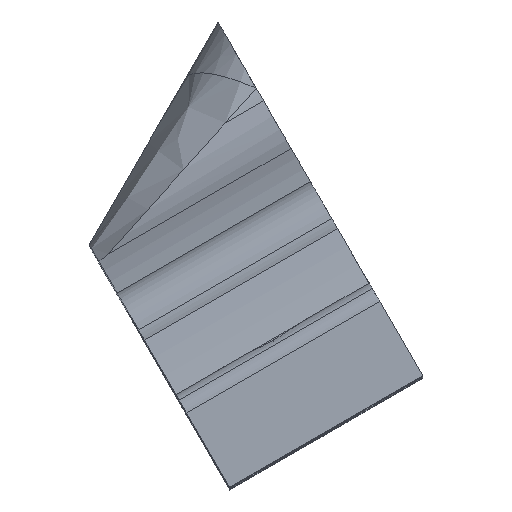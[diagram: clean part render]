
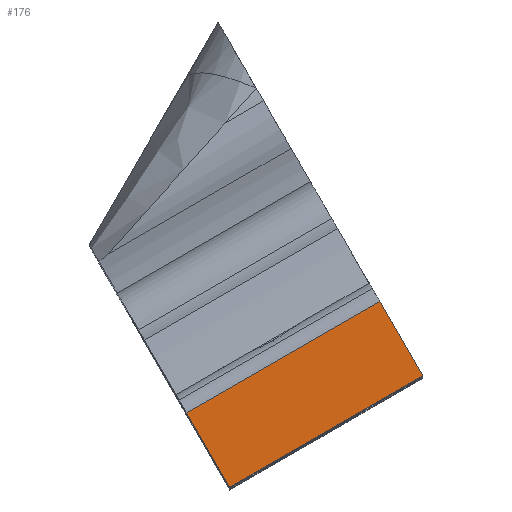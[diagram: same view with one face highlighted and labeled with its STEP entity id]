
A CAD part, top view. The second image highlights one B-rep face of the part: STEP entity #176.
In plain terms, the highlighted planar face has unit normal (0, 0, 1).
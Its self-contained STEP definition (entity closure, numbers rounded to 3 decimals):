
#49=PLANE('',#1890);
#176=ADVANCED_FACE('NONE',(#331),#49,.T.);
#331=FACE_OUTER_BOUND('',#434,.T.);
#434=EDGE_LOOP('',(#788,#789,#790,#791));
#788=ORIENTED_EDGE('',*,*,#1449,.F.);
#789=ORIENTED_EDGE('',*,*,#1450,.T.);
#790=ORIENTED_EDGE('',*,*,#1451,.F.);
#791=ORIENTED_EDGE('',*,*,#1369,.T.);
#1187=VERTEX_POINT('',#2705);
#1188=VERTEX_POINT('',#2707);
#1244=VERTEX_POINT('',#2969);
#1245=VERTEX_POINT('',#2971);
#1369=EDGE_CURVE('NONE',#1188,#1187,#1603,.T.);
#1449=EDGE_CURVE('NONE',#1244,#1187,#1633,.T.);
#1450=EDGE_CURVE('NONE',#1244,#1245,#1634,.T.);
#1451=EDGE_CURVE('NONE',#1188,#1245,#1635,.T.);
#1603=LINE('',#2706,#1709);
#1633=LINE('',#2968,#1739);
#1634=LINE('',#2970,#1740);
#1635=LINE('',#2972,#1741);
#1709=VECTOR('',#2070,1.);
#1739=VECTOR('',#2218,1.);
#1740=VECTOR('',#2219,1.);
#1741=VECTOR('',#2220,1.);
#1890=AXIS2_PLACEMENT_3D('',#2973,#2221,#2222);
#2070=DIRECTION('',(-0.5,0.866,0.));
#2218=DIRECTION('',(0.866,0.5,0.));
#2219=DIRECTION('',(0.5,-0.866,0.));
#2220=DIRECTION('',(-0.866,-0.5,0.));
#2221=DIRECTION('',(0.,0.,1.));
#2222=DIRECTION('',(0.,-1.,0.));
#2705=CARTESIAN_POINT('',(-89.162,8.702,35.517));
#2706=CARTESIAN_POINT('',(-89.037,8.486,35.517));
#2707=CARTESIAN_POINT('',(-87.162,5.238,35.517));
#2968=CARTESIAN_POINT('',(-98.162,3.506,35.517));
#2969=CARTESIAN_POINT('',(-98.162,3.506,35.517));
#2970=CARTESIAN_POINT('',(-98.037,3.289,35.517));
#2971=CARTESIAN_POINT('',(-96.162,0.042,35.517));
#2972=CARTESIAN_POINT('',(-96.162,0.042,35.517));
#2973=CARTESIAN_POINT('',(-98.662,4.372,35.517));
